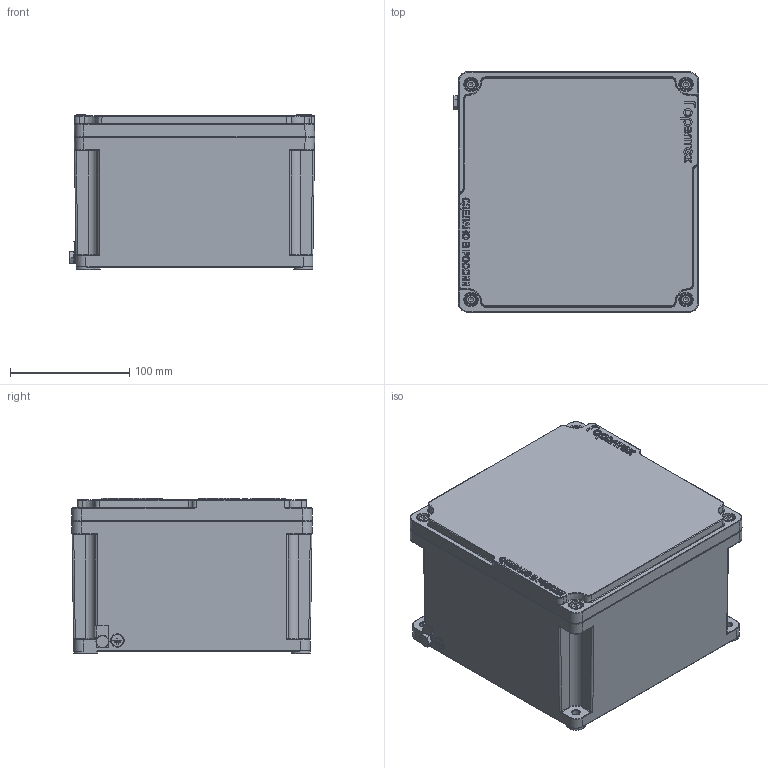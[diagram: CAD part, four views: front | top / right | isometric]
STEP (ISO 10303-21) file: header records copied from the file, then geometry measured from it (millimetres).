
FILE_DESCRIPTION((''),'2;1');
FILE_NAME('\\192.168.5.25\cortem_klient\INVENTOR БАЗА МОДЕЛЕЙ\Актуальная база моделей для отдела продаж\КСРВ\КСРВ202012_М1.stp','2019-04-09T11:27:56',('A.S.Kozlov'),(''),'Autodesk Inventor 2012','Autodesk Inventor 2012','');
FILE_SCHEMA(('CONFIG_CONTROL_DESIGN'));
Length unit declared in the file: millimetre
Products named in the file (1): КСРВ202012_М1_Внешний контур_1
Bounding box: 205.28 x 201.19 x 130 mm (x, y, z)
Surface area: 366762.7 mm2 (no closed solid volume)
Topology: 0 solids, 19 shells, 1788 faces, 4312 edges, 2612 vertices
Faces by surface type: plane 578, bspline 555, cylinder 415, torus 143, cone 82, sphere 15
Full cylindrical faces by diameter (mm): 4.1 x5, 4.567 x1, 4.9 x2, 5 x5, 5.3 x1, 5.459 x2, 6 x3, 6.4 x1, 6.5 x1, 6.7 x1, 8.5 x4, 8.7 x2, 10 x3, 11.4 x2, 12 x1
Entity records: 78851 total; most frequent: CARTESIAN_POINT 38822, ORIENTED_EDGE 8228, DIRECTION 6962, EDGE_CURVE 4114, VERTEX_POINT 2597, AXIS2_PLACEMENT_3D 2504, EDGE_LOOP 2063, VECTOR 1954
